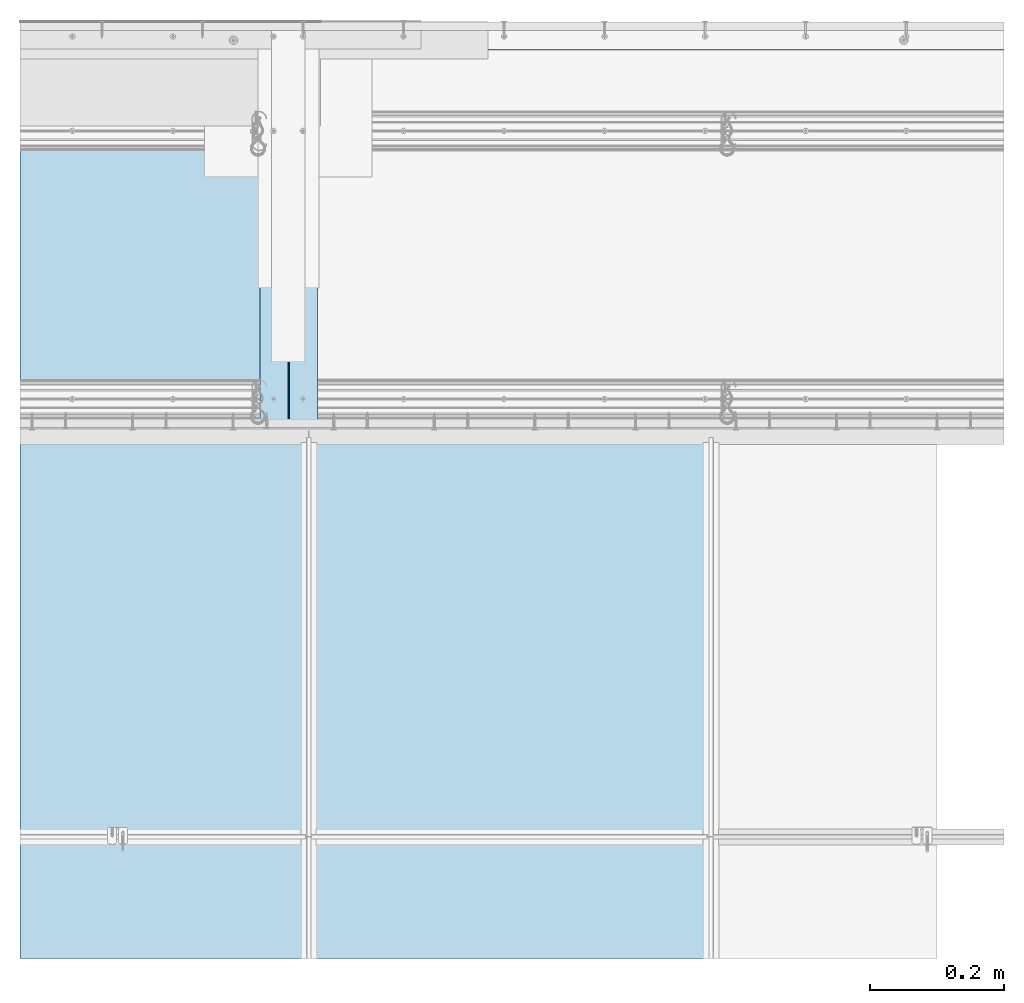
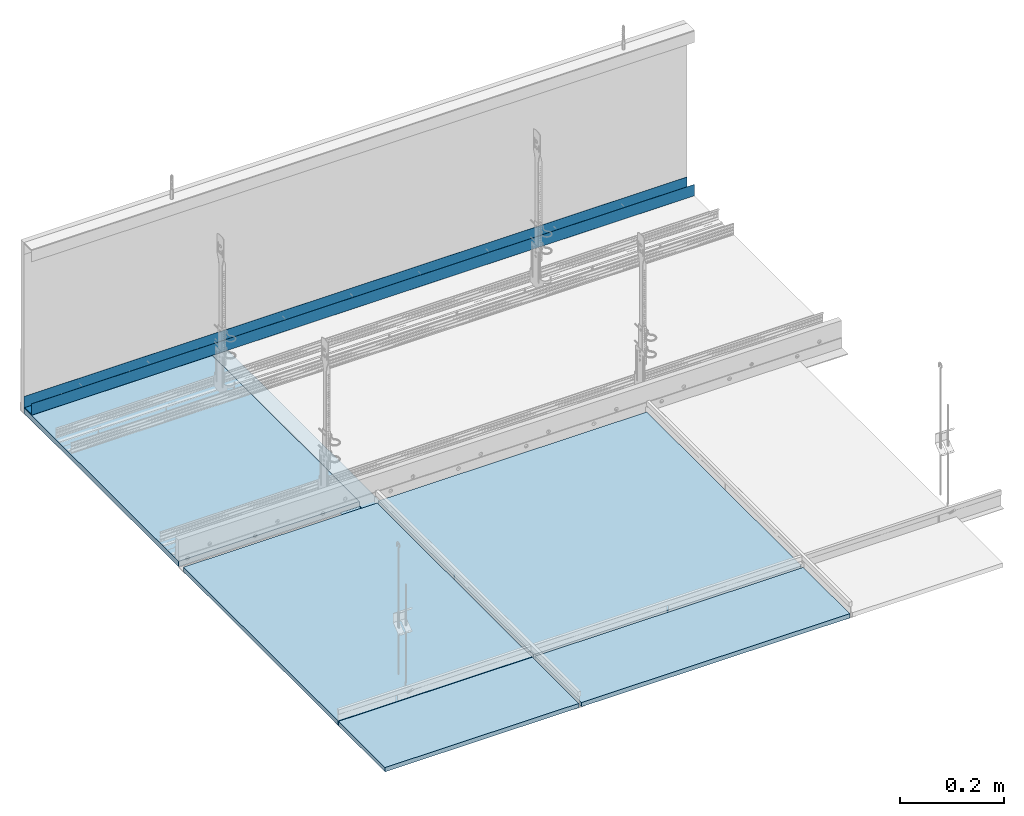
# One storey, part 3 of 79: 7 slabs.
"""IFC2X3 building model written with IfcOpenShell, lengths in millimetres."""

from ifc_helpers import new_model, entity, si_unit, converted_unit, direction, frame, origin, origin_with_axes, place, context, project, spatial, faceted_brep, element, save


model = new_model("IFC2X3")

# Units and contexts
model_context = context("Model", 3, precision=1e-05, world=origin(), true_north=direction((0.0, 1.0, 0.0)))
ifc_project = project(units=[si_unit("LENGTHUNIT", "METRE", prefix="MILLI"), si_unit("AREAUNIT", "SQUARE_METRE"), si_unit("VOLUMEUNIT", "CUBIC_METRE"), converted_unit("PLANEANGLEUNIT", "DEGREE", entity("IfcPlaneAngleMeasure", 0.01745), si_unit("PLANEANGLEUNIT", "RADIAN"), dimensions=[0, 0, 0, 0, 0, 0, 0]), si_unit("SOLIDANGLEUNIT", "STERADIAN"), si_unit("MASSUNIT", "GRAM"), si_unit("TIMEUNIT", "SECOND"), si_unit("THERMODYNAMICTEMPERATUREUNIT", "DEGREE_CELSIUS"), si_unit("LUMINOUSINTENSITYUNIT", "LUMEN")], contexts=[model_context])

# Site, building, storey
site_placement = place(None, origin_with_axes())
site = spatial("IfcSite", under=ifc_project, at=site_placement, Name="Default Site", CompositionType="ELEMENT")
building_placement = place(site_placement, origin_with_axes())
building = spatial("IfcBuilding", under=site, at=building_placement, Name="Default Building", CompositionType="ELEMENT")
storey_placement = place(building_placement, origin_with_axes())
storey = spatial("IfcBuildingStorey", under=building, at=storey_placement, Name="Default Building Storey", CompositionType="ELEMENT", Elevation=0.0)

# Slabs
slab_1_placement = place(storey_placement, frame((2525.439347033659, 829.7641033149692, 993.785217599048), z_axis=(-6.72623262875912e-44, -1.0, 3.330669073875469e-16), x_axis=(-1.0, 2.128075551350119e-28, 6.389333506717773e-13)))
element("IfcSlab", 1, at=slab_1_placement, inside=storey, Name="Płyta gipsowo-kartonowa RIGIPS PRO (4PRO™)", context=model_context, shape_type="Brep", body=[
    faceted_brep([(400.4142135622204, 12.49999999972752, -799.6336619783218), (400.4142135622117, -2.447279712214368e-10, -799.6336619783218), (400.4142135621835, -2.932765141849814e-10, -1392.152531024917), (400.4142135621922, 12.49999999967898, -1392.152531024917), (45.0000000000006, 12.50000000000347, -799.6336619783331), (41.00000000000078, 11.50000000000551, -799.6336619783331), (0.9999999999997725, 11.50000000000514, -799.6336619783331), (0.741180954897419, 11.46592582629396, -799.6336619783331), (0.5000000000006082, 11.3660254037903, -799.6336619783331), (0.2928932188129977, 11.20710678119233, -799.6336619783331), (0.1339745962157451, 11.00000000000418, -799.6336619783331), (0.03407417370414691, 10.75881904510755, -799.6336619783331), (2.887645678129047e-12, 10.50000000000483, -799.6336619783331), (2.887645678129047e-12, 1.443822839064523e-12, -799.6336619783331), (44.9999999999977, 12.49999999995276, -1392.152531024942), (40.9999999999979, 11.49999999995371, -1392.152531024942), (0.9999999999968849, 11.49999999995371, -1392.152531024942), (0.7411809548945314, 11.46592582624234, -1392.152531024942), (0.4999999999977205, 11.36602540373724, -1392.152531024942), (0.29289321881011, 11.20710678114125, -1392.152531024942), (0.1339745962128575, 10.99999999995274, -1392.152531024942), (0.03407417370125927, 10.75881904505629, -1392.152531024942), (0.0, 10.4999999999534, -1392.152531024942), (0.0, -4.999236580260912e-11, -1392.152531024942)], [[[0, 1, 2, 3]], [[0, 4, 5, 6, 7, 8, 9, 10, 11, 12, 13, 1]], [[3, 14, 4, 0]], [[5, 4, 14, 15]], [[6, 5, 15, 16]], [[7, 6, 16, 17]], [[8, 7, 17, 18]], [[9, 8, 18, 19]], [[10, 9, 19, 20]], [[11, 10, 20, 21]], [[12, 11, 21, 22]], [[13, 12, 22, 23]], [[2, 1, 13, 23]], [[14, 3, 2, 23, 22, 21, 20, 19, 18, 17, 16, 15]]]),
])
slab_2_placement = place(storey_placement, frame((2480.439347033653, 1616.82092233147, 981.985217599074), z_axis=(0.0, 0.0, 1.0), x_axis=(1.0, 0.0, 0.0)))
element("IfcSlab", 2, at=slab_2_placement, inside=storey, Name="Dedykowana masa szpachlowa Rigips - konstrukcyjna", context=model_context, shape_type="Brep", body=[
    faceted_brep([(46.29289321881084, -1.991545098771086e-13, 0.5928932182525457), (46.29289321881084, 605.0957120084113, 0.5928932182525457), (46.13397459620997, 605.0957120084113, 0.7999999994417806), (46.13397459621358, -1.991545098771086e-13, 0.7999999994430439), (87.00000000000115, 0.0, 0.2999999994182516), (87.00000000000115, 605.0957120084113, 0.2999999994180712), (47.00000000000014, 605.0957120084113, 0.2999999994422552), (47.00000000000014, 0.0, 0.2999999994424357), (46.74118095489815, 0.0, 0.3340741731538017), (46.74118095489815, 605.0957120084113, 0.3340741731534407), (46.49999999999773, 605.0957120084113, 0.4339745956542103), (46.49999999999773, -1.991545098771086e-13, 0.4339745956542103), (2.799999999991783, 0.0, 1.804778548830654e-13), (88.1999999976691, 0.0, 0.0), (46.03407417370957, 0.0, 1.041180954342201), (45.99999999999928, 0.0, 1.299999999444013), (46.00000000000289, 0.0, 1.999999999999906), (44.99999999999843, 0.0, 1.999999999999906), (45.00000000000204, 0.0, 1.299999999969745), (44.96592582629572, 0.0, 1.041180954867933), (44.86602540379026, 0.0, 0.7999999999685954), (44.70710678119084, 1.991545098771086e-13, 0.5928932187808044), (44.50000000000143, 0.0, 0.4339745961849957), (44.2588190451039, 0.0, 0.3340741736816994), (44.00000000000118, 0.0, 0.2999999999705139), (3.999999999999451, 0.0, 0.3000000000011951), (46.03407417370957, 605.0957120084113, 1.041180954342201), (45.99999999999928, 605.0957120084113, 1.299999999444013), (88.1999999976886, 605.0957120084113, -1.804778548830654e-13), (46.00000000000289, 605.0957120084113, 1.999999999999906), (44.99999999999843, 605.0957120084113, 1.999999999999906), (2.799999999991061, 605.0957120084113, 0.0), (3.999999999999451, 605.0957120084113, 0.3000000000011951), (44.00000000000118, 605.0957120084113, 0.2999999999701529), (44.2588190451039, 605.0957120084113, 0.3340741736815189), (44.5000000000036, 605.0957120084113, 0.433974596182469), (44.70710678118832, 605.0957120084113, 0.5928932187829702), (44.86602540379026, 605.0957120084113, 0.7999999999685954), (44.96592582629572, 605.0957120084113, 1.041180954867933), (45.00000000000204, 605.0957120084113, 1.299999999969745)], [[[0, 1, 2, 3]], [[4, 5, 6, 7]], [[8, 9, 10, 11]], [[12, 13, 4, 7, 8, 11, 0, 3, 14, 15, 16, 17, 18, 19, 20, 21, 22, 23, 24, 25]], [[14, 26, 27, 15]], [[3, 2, 26, 14]], [[7, 6, 9, 8]], [[11, 10, 1, 0]], [[4, 13, 28, 5]], [[15, 27, 29, 16]], [[30, 29, 27, 26, 2, 1, 10, 9, 6, 5, 28, 31, 32, 33, 34, 35, 36, 37, 38, 39]], [[18, 17, 30, 39]], [[19, 38, 37, 20]], [[18, 39, 38, 19]], [[24, 33, 32, 25]], [[23, 34, 33, 24]], [[20, 37, 36, 21]], [[17, 16, 29, 30]], [[21, 36, 35, 22]], [[22, 35, 34, 23]], [[25, 32, 31, 12]], [[31, 28, 13, 12]]]),
])
slab_3_placement = place(storey_placement, frame((2560.04061825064, 1022.220922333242, 991.2852175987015), z_axis=(0.0, 0.0, 1.0), x_axis=(1.0, 0.0, 0.0)))
element("IfcSlab", 3, at=slab_3_placement, inside=storey, Name="Płyta sufitowa RIGIPS CASOPRANO", context=model_context, shape_type="Brep", body=[
    faceted_brep([(594.0000000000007, 594.0000000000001, -9.999999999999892), (3.609557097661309e-13, 593.9999999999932, -10.00000000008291), (0.0, 594.0000000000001, -7.999999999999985), (593.9999999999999, 594.0000000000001, -7.999999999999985), (-3.609557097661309e-13, -1.804778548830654e-13, -10.00000000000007), (593.9999999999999, 4.150990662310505e-12, -10.00000000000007), (593.9999999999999, 4.33146851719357e-12, -7.999999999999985), (0.0, 3.609557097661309e-13, -7.999999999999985), (0.0, 0.0, 0.0), (593.9999999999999, 0.0, 0.0), (0.0, 594.0000000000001, 0.0), (593.9999999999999, 594.0000000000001, 0.0)], [[[0, 1, 2, 3]], [[4, 1, 0, 5]], [[5, 0, 3, 6]], [[5, 6, 7, 4]], [[7, 2, 3, 6]], [[8, 7, 6, 9]], [[7, 2, 1, 4]], [[10, 2, 7, 8]], [[11, 3, 2, 10]], [[9, 6, 3, 11]], [[9, 11, 10, 8]]]),
])
slab_4_placement = place(storey_placement, frame((1960.04061825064, 1017.220922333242, 991.2852175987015), z_axis=(0.0, 0.0, 1.0), x_axis=(1.0, 0.0, 0.0)))
element("IfcSlab", 4, at=slab_4_placement, inside=storey, Name="Płyta sufitowa RIGIPS CASOPRANO", context=model_context, shape_type="Brep", body=[
    faceted_brep([(594.0000000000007, 594.0000000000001, -9.999999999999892), (164.9845152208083, 593.9999999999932, -10.00000000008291), (164.9845152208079, 594.0000000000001, -7.999999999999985), (593.9999999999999, 594.0000000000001, -7.999999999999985), (164.9845152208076, -1.804778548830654e-13, -10.00000000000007), (593.9999999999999, 4.150990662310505e-12, -10.00000000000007), (593.9999999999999, 4.33146851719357e-12, -7.999999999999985), (164.9845152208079, 3.609557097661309e-13, -7.999999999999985), (164.9845152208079, 0.0, 0.0), (593.9999999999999, 0.0, 0.0), (164.9845152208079, 594.0000000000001, 0.0), (593.9999999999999, 594.0000000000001, 0.0)], [[[0, 1, 2, 3]], [[4, 1, 0, 5]], [[5, 0, 3, 6]], [[5, 6, 7, 4]], [[8, 7, 6, 9]], [[10, 2, 1, 4, 7, 8]], [[11, 3, 2, 10]], [[9, 6, 3, 11]], [[9, 11, 10, 8]]]),
])
slab_5_placement = place(storey_placement, frame((2560.040618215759, 422.2209223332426, 991.2852175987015), z_axis=(0.0, 0.0, 1.0), x_axis=(1.0, 0.0, 0.0)))
element("IfcSlab", 5, at=slab_5_placement, inside=storey, Name="Płyta sufitowa RIGIPS CASOPRANO", context=model_context, shape_type="Brep", body=[
    faceted_brep([(593.9999999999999, 415.4143925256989, 0.0), (0.0, 415.4143925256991, 0.0), (0.0, 415.4143925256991, -10.00000000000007), (593.9999999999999, 415.4143925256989, -10.00000000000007), (0.0, 594.0000000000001, 0.0), (593.9999999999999, 594.0000000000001, 0.0), (594.0000000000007, 594.0000000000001, -9.999999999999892), (3.609557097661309e-13, 593.9999999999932, -10.00000000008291)], [[[0, 1, 2, 3]], [[4, 1, 0, 5]], [[6, 3, 2, 7]], [[7, 2, 1, 4]], [[5, 6, 7, 4]], [[0, 3, 6, 5]]]),
])
slab_6_placement = place(storey_placement, frame((1960.040618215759, 422.2209223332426, 991.2852175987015), z_axis=(0.0, 0.0, 1.0), x_axis=(1.0, 0.0, 0.0)))
element("IfcSlab", 6, at=slab_6_placement, inside=storey, Name="Płyta sufitowa RIGIPS CASOPRANO", context=model_context, shape_type="Brep", body=[
    faceted_brep([(594.0000000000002, 415.4143925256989, 0.0), (164.9845152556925, 415.4143925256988, 4.150990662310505e-12), (164.9845152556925, 415.4143925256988, -9.999999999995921), (594.0000000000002, 415.4143925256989, -10.00000000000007), (164.9845152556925, 593.9999999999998, 4.150990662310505e-12), (594.0000000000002, 594.0000000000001, 0.0), (594.0000000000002, 594.0000000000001, -9.999999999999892), (164.9845152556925, 593.9999999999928, -10.00000000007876)], [[[0, 1, 2, 3]], [[4, 1, 0, 5]], [[6, 3, 2, 7]], [[7, 2, 1, 4]], [[5, 6, 7, 4]], [[0, 3, 6, 5]]]),
])
slab_7_placement = place(storey_placement, frame((4925.555743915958, 3691.282667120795, 879.8102175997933), z_axis=(-5.694276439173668e-14, -6.860206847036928e-13, 1.0), x_axis=(-1.0, -2.15429261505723e-15, -1.019744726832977e-13)))
element("IfcSlab", 7, at=slab_7_placement, inside=storey, Name="Profil RIGIPS UD 30 ULTRASTIL®", context=model_context, shape_type="Brep", body=[
    faceted_brep([(2800.530610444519, 1469.916032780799, 140.9749999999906), (2800.530610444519, 1469.3660327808, 140.9749999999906), (2800.530610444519, 1469.3660327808, 114.7749999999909), (2800.530610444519, 1469.375882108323, 114.6498524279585), (2800.530610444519, 1469.405187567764, 114.527786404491), (2800.530610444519, 1469.45322756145, 114.4118076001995), (2800.530610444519, 1469.518819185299, 114.304771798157), (2800.530610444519, 1469.600347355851, 114.2093145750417), (2800.530610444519, 1469.695804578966, 114.1277864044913), (2800.530610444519, 1469.802840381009, 114.0621947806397), (2800.530610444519, 1469.9188191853, 114.0141547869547), (2800.530610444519, 1470.040885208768, 113.9848493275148), (2800.530610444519, 1470.1660327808, 113.9749999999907), (2800.530610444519, 1472.0160327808, 113.9749999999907), (2800.530610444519, 1472.163550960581, 113.9887186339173), (2800.530610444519, 1472.306009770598, 114.0294040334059), (2800.530610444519, 1472.43852336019, 114.0956608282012), (2800.530610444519, 1472.556546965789, 114.1852166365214), (2800.530610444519, 1472.656032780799, 114.2949999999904), (2800.530610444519, 1473.6760327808, 115.654999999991), (2800.530610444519, 1473.775518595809, 115.76478336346), (2800.530610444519, 1473.89354220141, 115.8543391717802), (2800.530610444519, 1474.026055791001, 115.9205959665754), (2800.530610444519, 1474.168514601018, 115.9612813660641), (2800.530610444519, 1474.3160327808, 115.9749999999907), (2800.530610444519, 1493.6160327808, 115.9749999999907), (2800.530610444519, 1493.763550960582, 115.9612813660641), (2800.530610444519, 1493.906009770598, 115.9205959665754), (2800.530610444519, 1494.038523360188, 115.8543391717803), (2800.530610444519, 1494.156546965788, 115.76478336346), (2800.530610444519, 1494.2560327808, 115.654999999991), (2800.530610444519, 1495.276032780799, 114.2949999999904), (2800.530610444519, 1495.37551859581, 114.1852166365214), (2800.530610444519, 1495.493542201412, 114.0956608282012), (2800.530610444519, 1495.626055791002, 114.029404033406), (2800.530610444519, 1495.768514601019, 113.9887186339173), (2800.530610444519, 1495.9160327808, 113.9749999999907), (2800.530610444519, 1497.7660327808, 113.9749999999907), (2800.530610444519, 1497.891180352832, 113.9848493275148), (2800.530610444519, 1498.0132463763, 114.0141547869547), (2800.530610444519, 1498.129225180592, 114.0621947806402), (2800.530610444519, 1498.236260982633, 114.1277864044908), (2800.530610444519, 1498.331718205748, 114.2093145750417), (2800.530610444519, 1498.413246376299, 114.3047717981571), (2800.530610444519, 1498.478838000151, 114.4118076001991), (2800.530610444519, 1498.526877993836, 114.5277864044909), (2800.530610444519, 1498.556183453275, 114.6498524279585), (2800.530610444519, 1498.566032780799, 114.7749999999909), (2800.53061044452, 1498.566032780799, 140.9749999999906), (2800.53061044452, 1498.016032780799, 140.9749999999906), (2800.530610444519, 1498.016032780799, 114.7749999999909), (2800.530610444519, 1498.012954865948, 114.735891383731), (2800.530610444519, 1498.003796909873, 114.6977457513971), (2800.530610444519, 1497.988784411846, 114.6615023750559), (2800.530610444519, 1497.968287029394, 114.628053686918), (2800.530610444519, 1497.942809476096, 114.5982233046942), (2800.530610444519, 1497.912979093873, 114.5727457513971), (2800.530610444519, 1497.879530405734, 114.5522483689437), (2800.530610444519, 1497.843287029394, 114.5372358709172), (2800.530610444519, 1497.80514139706, 114.5280779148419), (2800.530610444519, 1497.7660327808, 114.5249999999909), (2800.530610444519, 1495.9160327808, 114.5249999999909), (2800.530610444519, 1495.869933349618, 114.5292870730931), (2800.530610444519, 1495.825414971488, 114.542001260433), (2800.530610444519, 1495.784004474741, 114.5627065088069), (2800.530610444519, 1495.747122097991, 114.5906926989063), (2800.530610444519, 1495.716032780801, 114.6249999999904), (2800.530610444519, 1494.6960327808, 115.9849999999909), (2800.530610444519, 1494.52815046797, 116.1702594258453), (2800.530610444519, 1494.328985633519, 116.3213848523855), (2800.530610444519, 1494.105368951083, 116.433193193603), (2800.530610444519, 1493.864969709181, 116.5018498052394), (2800.530610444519, 1493.6160327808, 116.5249999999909), (2800.530610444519, 1474.3160327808, 116.5249999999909), (2800.530610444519, 1474.067095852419, 116.5018498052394), (2800.530610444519, 1473.826696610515, 116.4331931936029), (2800.530610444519, 1473.60307992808, 116.3213848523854), (2800.530610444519, 1473.40391509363, 116.1702594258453), (2800.530610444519, 1473.2360327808, 115.9849999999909), (2800.530610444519, 1472.216032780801, 114.6249999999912), (2800.530610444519, 1472.184943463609, 114.5906926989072), (2800.530610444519, 1472.148061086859, 114.5627065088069), (2800.530610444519, 1472.106650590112, 114.5420012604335), (2800.530610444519, 1472.062132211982, 114.5292870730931), (2800.530610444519, 1472.0160327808, 114.5249999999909), (2800.530610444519, 1470.1660327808, 114.5249999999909), (2800.530610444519, 1470.12692416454, 114.5280779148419), (2800.530610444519, 1470.088778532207, 114.5372358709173), (2800.530610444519, 1470.052535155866, 114.5522483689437), (2800.530610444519, 1470.019086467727, 114.5727457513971), (2800.530610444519, 1469.989256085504, 114.5982233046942), (2800.530610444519, 1469.963778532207, 114.628053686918), (2800.530610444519, 1469.943281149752, 114.6615023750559), (2800.530610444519, 1469.928268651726, 114.6977457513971), (2800.530610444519, 1469.919110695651, 114.735891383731), (2800.530610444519, 1469.916032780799, 114.7749999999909), (1332.51512569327, 1469.366032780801, 114.7750000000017), (1332.515125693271, 1469.366032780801, 140.9750000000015), (1332.515125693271, 1469.916032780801, 140.9750000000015), (1332.51512569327, 1469.916032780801, 114.7750000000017), (1332.51512569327, 1469.919110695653, 114.7358913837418), (1332.51512569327, 1469.928268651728, 114.6977457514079), (1332.51512569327, 1469.943281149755, 114.6615023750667), (1332.51512569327, 1469.96377853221, 114.6280536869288), (1332.51512569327, 1469.989256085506, 114.598223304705), (1332.51512569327, 1470.019086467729, 114.5727457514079), (1332.51512569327, 1470.052535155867, 114.5522483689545), (1332.51512569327, 1470.088778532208, 114.5372358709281), (1332.51512569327, 1470.126924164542, 114.5280779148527), (1332.51512569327, 1470.166032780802, 114.5250000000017), (1332.51512569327, 1472.016032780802, 114.5250000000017), (1332.51512569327, 1472.062132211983, 114.5292870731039), (1332.51512569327, 1472.106650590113, 114.5420012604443), (1332.51512569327, 1472.14806108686, 114.5627065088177), (1332.51512569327, 1472.18494346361, 114.590692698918), (1332.51512569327, 1472.216032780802, 114.6250000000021), (1332.51512569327, 1473.236032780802, 115.9850000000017), (1332.51512569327, 1473.403915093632, 116.1702594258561), (1332.515125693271, 1473.603079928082, 116.3213848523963), (1332.515125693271, 1473.826696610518, 116.4331931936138), (1332.515125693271, 1474.067095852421, 116.5018498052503), (1332.515125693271, 1474.316032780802, 116.5250000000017), (1332.515125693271, 1493.616032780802, 116.5250000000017), (1332.515125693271, 1493.864969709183, 116.5018498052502), (1332.515125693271, 1494.105368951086, 116.4331931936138), (1332.515125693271, 1494.32898563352, 116.3213848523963), (1332.51512569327, 1494.528150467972, 116.1702594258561), (1332.51512569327, 1494.696032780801, 115.9850000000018), (1332.51512569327, 1495.716032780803, 114.6250000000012), (1332.51512569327, 1495.747122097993, 114.5906926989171), (1332.51512569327, 1495.784004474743, 114.5627065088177), (1332.51512569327, 1495.82541497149, 114.5420012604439), (1332.51512569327, 1495.86993334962, 114.5292870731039), (1332.51512569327, 1495.916032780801, 114.5250000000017), (1332.51512569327, 1497.766032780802, 114.5250000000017), (1332.51512569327, 1497.805141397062, 114.5280779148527), (1332.51512569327, 1497.843287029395, 114.5372358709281), (1332.51512569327, 1497.879530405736, 114.5522483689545), (1332.51512569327, 1497.912979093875, 114.5727457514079), (1332.51512569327, 1497.942809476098, 114.598223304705), (1332.51512569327, 1497.968287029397, 114.6280536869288), (1332.51512569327, 1497.988784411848, 114.6615023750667), (1332.51512569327, 1498.003796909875, 114.6977457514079), (1332.51512569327, 1498.01295486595, 114.7358913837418), (1332.51512569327, 1498.016032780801, 114.7750000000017), (1332.515125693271, 1498.016032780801, 140.9750000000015), (1332.515125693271, 1498.566032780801, 140.9750000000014), (1332.51512569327, 1498.566032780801, 114.7750000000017), (1332.51512569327, 1498.556183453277, 114.6498524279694), (1332.51512569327, 1498.526877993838, 114.5277864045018), (1332.51512569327, 1498.478838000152, 114.4118076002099), (1332.51512569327, 1498.413246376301, 114.3047717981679), (1332.51512569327, 1498.331718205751, 114.2093145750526), (1332.51512569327, 1498.236260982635, 114.1277864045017), (1332.51512569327, 1498.129225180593, 114.062194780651), (1332.51512569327, 1498.013246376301, 114.0141547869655), (1332.51512569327, 1497.891180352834, 113.9848493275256), (1332.51512569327, 1497.766032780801, 113.9750000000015), (1332.51512569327, 1495.916032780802, 113.9750000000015), (1332.51512569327, 1495.76851460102, 113.9887186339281), (1332.51512569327, 1495.626055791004, 114.0294040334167), (1332.51512569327, 1495.493542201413, 114.0956608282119), (1332.51512569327, 1495.375518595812, 114.1852166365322), (1332.51512569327, 1495.276032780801, 114.2950000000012), (1332.51512569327, 1494.256032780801, 115.6550000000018), (1332.51512569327, 1494.156546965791, 115.7647833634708), (1332.51512569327, 1494.03852336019, 115.8543391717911), (1332.51512569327, 1493.906009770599, 115.9205959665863), (1332.51512569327, 1493.763550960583, 115.9612813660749), (1332.51512569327, 1493.616032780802, 115.9750000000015), (1332.51512569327, 1474.316032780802, 115.9750000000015), (1332.51512569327, 1474.16851460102, 115.9612813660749), (1332.51512569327, 1474.026055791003, 115.9205959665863), (1332.51512569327, 1473.893542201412, 115.854339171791), (1332.51512569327, 1473.775518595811, 115.7647833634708), (1332.51512569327, 1473.676032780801, 115.6550000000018), (1332.51512569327, 1472.656032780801, 114.2950000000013), (1332.51512569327, 1472.556546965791, 114.1852166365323), (1332.51512569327, 1472.438523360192, 114.095660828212), (1332.51512569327, 1472.306009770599, 114.0294040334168), (1332.51512569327, 1472.163550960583, 113.9887186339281), (1332.51512569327, 1472.016032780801, 113.9750000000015), (1332.51512569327, 1470.166032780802, 113.9750000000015), (1332.51512569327, 1470.04088520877, 113.9848493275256), (1332.51512569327, 1469.918819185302, 114.0141547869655), (1332.51512569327, 1469.80284038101, 114.0621947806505), (1332.51512569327, 1469.695804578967, 114.1277864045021), (1332.51512569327, 1469.600347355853, 114.2093145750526), (1332.51512569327, 1469.518819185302, 114.3047717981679), (1332.51512569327, 1469.453227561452, 114.4118076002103), (1332.51512569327, 1469.405187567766, 114.5277864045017), (1332.51512569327, 1469.375882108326, 114.6498524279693)], [[[0, 1, 2, 3, 4, 5, 6, 7, 8, 9, 10, 11, 12, 13, 14, 15, 16, 17, 18, 19, 20, 21, 22, 23, 24, 25, 26, 27, 28, 29, 30, 31, 32, 33, 34, 35, 36, 37, 38, 39, 40, 41, 42, 43, 44, 45, 46, 47, 48, 49, 50, 51, 52, 53, 54, 55, 56, 57, 58, 59, 60, 61, 62, 63, 64, 65, 66, 67, 68, 69, 70, 71, 72, 73, 74, 75, 76, 77, 78, 79, 80, 81, 82, 83, 84, 85, 86, 87, 88, 89, 90, 91, 92, 93, 94, 95]], [[96, 97, 98, 99, 100, 101, 102, 103, 104, 105, 106, 107, 108, 109, 110, 111, 112, 113, 114, 115, 116, 117, 118, 119, 120, 121, 122, 123, 124, 125, 126, 127, 128, 129, 130, 131, 132, 133, 134, 135, 136, 137, 138, 139, 140, 141, 142, 143, 144, 145, 146, 147, 148, 149, 150, 151, 152, 153, 154, 155, 156, 157, 158, 159, 160, 161, 162, 163, 164, 165, 166, 167, 168, 169, 170, 171, 172, 173, 174, 175, 176, 177, 178, 179, 180, 181, 182, 183, 184, 185, 186, 187, 188, 189, 190, 191]], [[23, 171, 170, 24]], [[22, 172, 171, 23]], [[175, 174, 20, 19]], [[172, 22, 21, 173]], [[20, 174, 173, 21]], [[24, 170, 169, 25]], [[29, 165, 164, 30]], [[165, 29, 28, 166]], [[27, 167, 166, 28]], [[169, 168, 26, 25]], [[26, 168, 167, 27]], [[30, 164, 163, 31]], [[35, 159, 158, 36]], [[34, 160, 159, 35]], [[33, 32, 162, 161]], [[161, 160, 34, 33]], [[163, 162, 32, 31]], [[36, 158, 157, 37]], [[46, 45, 149, 148]], [[148, 147, 47, 46]], [[44, 150, 149, 45]], [[43, 42, 152, 151]], [[151, 150, 44, 43]], [[41, 40, 154, 153]], [[153, 152, 42, 41]], [[39, 155, 154, 40]], [[38, 37, 157, 156]], [[156, 155, 39, 38]], [[47, 147, 146, 48]], [[48, 146, 145, 49]], [[49, 145, 144, 50]], [[134, 60, 59, 135]], [[58, 136, 135, 59]], [[57, 137, 136, 58]], [[137, 57, 56, 138]], [[55, 139, 138, 56]], [[139, 55, 54, 140]], [[53, 141, 140, 54]], [[52, 142, 141, 53]], [[142, 52, 51, 143]], [[50, 144, 143, 51]], [[60, 134, 133, 61]], [[65, 129, 128, 66]], [[129, 65, 64, 130]], [[63, 131, 130, 64]], [[133, 132, 62, 61]], [[62, 132, 131, 63]], [[66, 128, 127, 67]], [[71, 123, 122, 72]], [[70, 69, 125, 124]], [[124, 123, 71, 70]], [[68, 126, 125, 69]], [[127, 126, 68, 67]], [[72, 122, 121, 73]], [[77, 117, 116, 78]], [[76, 118, 117, 77]], [[75, 74, 120, 119]], [[119, 118, 76, 75]], [[121, 120, 74, 73]], [[78, 116, 115, 79]], [[83, 111, 110, 84]], [[82, 112, 111, 83]], [[115, 114, 80, 79]], [[112, 82, 81, 113]], [[80, 114, 113, 81]], [[84, 110, 109, 85]], [[99, 95, 94, 100]], [[93, 101, 100, 94]], [[92, 102, 101, 93]], [[102, 92, 91, 103]], [[90, 104, 103, 91]], [[104, 90, 89, 105]], [[88, 106, 105, 89]], [[87, 107, 106, 88]], [[107, 87, 86, 108]], [[85, 109, 108, 86]], [[95, 99, 98, 0]], [[0, 98, 97, 1]], [[1, 97, 96, 2]], [[11, 10, 184, 183]], [[183, 182, 12, 11]], [[9, 185, 184, 10]], [[6, 5, 189, 188]], [[7, 6, 188, 187]], [[8, 7, 187, 186]], [[186, 185, 9, 8]], [[4, 190, 189, 5]], [[3, 2, 96, 191]], [[191, 190, 4, 3]], [[12, 182, 181, 13]], [[17, 177, 176, 18]], [[16, 15, 179, 178]], [[178, 177, 17, 16]], [[14, 180, 179, 15]], [[181, 180, 14, 13]], [[18, 176, 175, 19]]]),
])

save(model, "model.ifc")
